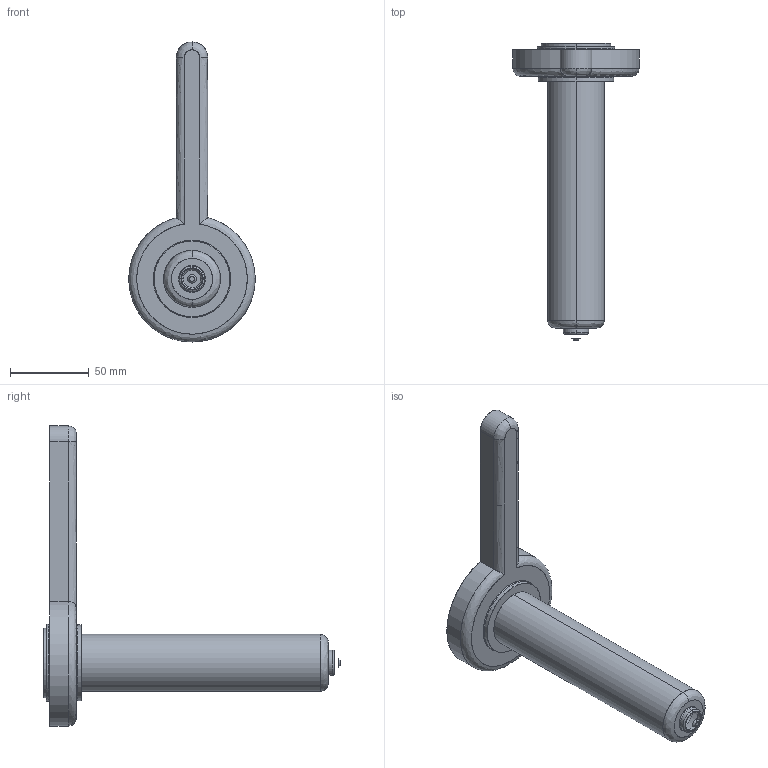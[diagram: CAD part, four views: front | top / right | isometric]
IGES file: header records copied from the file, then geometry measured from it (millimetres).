
Start section: SolidWorks IGES file using analytic representation for surfaces
Global section: file name: C:\Documents and Settings\ws-20\Desktop\TEM\Sede UGEP5004-S-A C-164 L-186 Ød-3.0.IGS; native system: SolidWorks 2012; preprocessor: SolidWorks 2012; author: ws-20; date: 120426.141742; units: millimetre
Bounding box: 79.97 x 188.42 x 190 mm (x, y, z)
Surface area: 39934.4 mm2 (no closed solid volume)
Topology: 0 solids, 0 shells, 44 faces, 952 edges, 952 vertices
Faces by surface type: revolution 27, bspline 17
